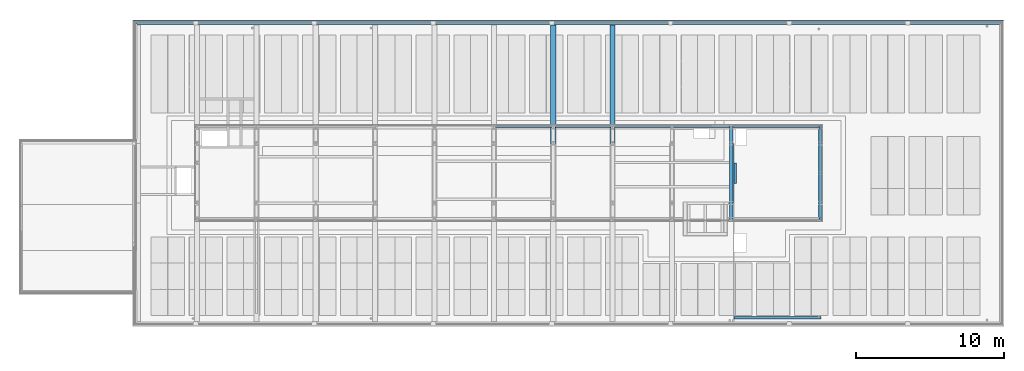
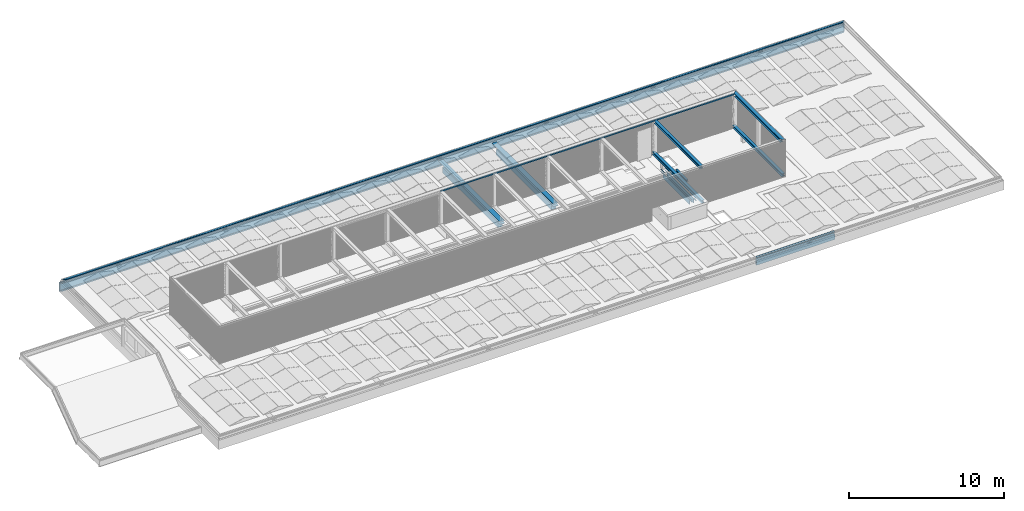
# One storey, part 13 of 63: 13 beams.
"""IFC2X3 building model written with IfcOpenShell, lengths in millimetres."""

from ifc_helpers import new_model, entity, si_unit, converted_unit, derived_unit, money_unit, direction, frame, origin_with_axes, place, context, subcontext, project, spatial, faceted_brep, material, type_object, element, save


model = new_model("IFC2X3")

# Units and contexts
model_context = context("Model", 3, precision=0.01, world=origin_with_axes(), true_north=direction((0.0, 1.0)))
body_context = subcontext(model_context, "Body", "Model", "MODEL_VIEW")
ifc_project = project(units=[si_unit("LENGTHUNIT", "METRE", prefix="MILLI"), si_unit("AREAUNIT", "SQUARE_METRE"), si_unit("VOLUMEUNIT", "CUBIC_METRE"), converted_unit("PLANEANGLEUNIT", "DEGREE", entity("IfcPlaneAngleMeasure", 0.0174532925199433), si_unit("PLANEANGLEUNIT", "RADIAN"), dimensions=[0, 0, 0, 0, 0, 0, 0]), money_unit("EUR"), converted_unit("TIMEUNIT", "Year", entity("IfcTimeMeasure", 31557600.0), si_unit("TIMEUNIT", "SECOND"), dimensions=[0, 0, 1, 0, 0, 0, 0]), si_unit("MASSUNIT", "GRAM", prefix="KILO"), si_unit("THERMODYNAMICTEMPERATUREUNIT", "DEGREE_CELSIUS"), si_unit("LUMINOUSINTENSITYUNIT", "LUMEN"), si_unit("ENERGYUNIT", "JOULE", prefix="MEGA"), derived_unit("THERMALCONDUCTANCEUNIT", [(si_unit("POWERUNIT", "WATT"), 1), (si_unit("LENGTHUNIT", "METRE"), -1), (si_unit("THERMODYNAMICTEMPERATUREUNIT", "KELVIN"), -1)]), derived_unit("SPECIFICHEATCAPACITYUNIT", [(si_unit("ENERGYUNIT", "JOULE"), 1), (si_unit("MASSUNIT", "GRAM", prefix="KILO"), -1), (si_unit("THERMODYNAMICTEMPERATUREUNIT", "KELVIN"), -1)]), derived_unit("MASSDENSITYUNIT", [(si_unit("MASSUNIT", "GRAM", prefix="KILO"), 1), (si_unit("VOLUMEUNIT", "CUBIC_METRE"), -1)])], contexts=[model_context])

# Site, building, storey
site_placement = place(None, origin_with_axes())
site = spatial("IfcSite", under=ifc_project, at=site_placement, Name="<site naam>", CompositionType="ELEMENT")
building_placement = place(site_placement, origin_with_axes())
building = spatial("IfcBuilding", under=site, at=building_placement, Name="<Naam gebouw>", CompositionType="ELEMENT")
storey_placement = place(building_placement, frame((0.0, 0.0, 12770.0), z_axis=(0.0, 0.0, 1.0), x_axis=(1.0, 0.0, 0.0)))
storey = spatial("IfcBuildingStorey", under=building, at=storey_placement, Name="04 4e verdieping", CompositionType="ELEMENT", Elevation=12770.0)

# Beams
ifc_material_1 = material(Name="beton_gewapend_prefab")
beam_type_1 = type_object("IfcBeamType", Name="Betonbanden 160 x 760", PredefinedType="BEAM")
beam_1_placement = place(storey_placement, frame((70309.99999999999, 20265.00000000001, 50.00000000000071), z_axis=(0.0, 0.0, 1.0), x_axis=(0.0, 1.0, 0.0)))
element("IfcBeam", 1, at=beam_1_placement, inside=storey, type_object=beam_type_1, material=ifc_material_1, Name="41_Balk_Betonbanden", ObjectType="BEAM", context=body_context, shape_type="Brep", body=[
    faceted_brep([(-60.00000030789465, 60.00000030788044, 0.0), (-60.00000030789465, 60.00000030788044, -30.00000230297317), (-60.00000030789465, 58524.99999969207, -30.00000230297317), (-60.00000030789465, 58524.99999969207, 0.0), (59.99999757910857, -59.99999757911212, -759.9999375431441), (59.99999757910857, -59.99999757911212, -30.00000230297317), (-100.0000071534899, 100.0000071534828, 0.0), (-100.0000071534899, 100.0000071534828, -100.0000001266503), (4.298051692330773e-06, -4.298058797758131e-06, -100.0000001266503), (4.298051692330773e-06, -4.298058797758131e-06, -690.0000385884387), (-29.99999800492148, 29.99999800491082, -690.0000385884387), (-29.99999800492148, 29.99999800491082, -660.0000280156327), (-60.00000030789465, 60.00000030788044, -660.0000280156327), (-60.00000030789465, 60.00000030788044, -759.9999375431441), (4.298051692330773e-06, -4.298058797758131e-06, -759.9999375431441), (4.298051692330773e-06, -4.298058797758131e-06, -730.0000145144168), (29.99999527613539, -29.9999952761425, -730.0000145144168), (29.99999527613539, -29.9999952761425, -759.9999375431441), (59.99999757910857, 58644.99999757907, -30.00000230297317), (-100.0000071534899, 58484.99999284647, 0.0), (59.99999757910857, 58644.99999757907, -759.9999375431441), (29.99999527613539, 58614.99999527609, -759.9999375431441), (29.99999527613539, 58614.99999527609, -730.0000145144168), (4.298055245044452e-06, 58585.00000429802, -730.0000145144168), (4.298055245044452e-06, 58585.00000429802, -759.9999375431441), (-60.00000030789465, 58524.99999969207, -759.9999375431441), (-60.00000030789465, 58524.99999969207, -660.0000280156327), (-29.99999800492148, 58555.00000199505, -660.0000280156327), (-29.99999800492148, 58555.00000199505, -690.0000385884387), (4.298055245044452e-06, 58585.00000429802, -690.0000385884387), (4.298051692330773e-06, 58585.00000429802, -100.0000001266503), (-100.0000071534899, 58484.99999284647, -100.0000001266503)], [[[0, 1, 2, 3]], [[4, 5, 1, 0, 6, 7, 8, 9, 10, 11, 12, 13, 14, 15, 16, 17]], [[1, 5, 18, 2]], [[19, 3, 2, 18, 20, 21, 22, 23, 24, 25, 26, 27, 28, 29, 30, 31]], [[6, 0, 3, 19]], [[5, 4, 20, 18]], [[7, 6, 19, 31]], [[8, 7, 31, 30]], [[9, 8, 30, 29]], [[10, 9, 29, 28]], [[11, 10, 28, 27]], [[12, 11, 27, 26]], [[13, 12, 26, 25]], [[14, 13, 25, 24]], [[15, 14, 24, 23]], [[16, 15, 23, 22]], [[17, 16, 22, 21]], [[4, 17, 21, 20]]]),
])
ifc_material_2 = material(Name="staal C")
beam_type_2 = type_object("IfcBeamType", Name="HEB220 220 x 220", PredefinedType="BEAM")
beam_2_placement = place(storey_placement, frame((52000.00007868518, 13199.99998542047, 444.1514325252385), z_axis=(0.0, 0.0, 1.0), x_axis=(-1.0, 0.0, 0.0)))
element("IfcBeam", 2, at=beam_2_placement, inside=storey, type_object=beam_type_2, material=ifc_material_2, Name="Info_Balk_HEB220", ObjectType="BEAM", context=body_context, shape_type="Brep", body=[
    faceted_brep([(-109.9999999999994, 0.0, 115.5000000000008), (-109.9999999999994, 6400.000011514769, 115.5000000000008), (-109.9999999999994, 6400.000011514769, 99.50000000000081), (-109.9999999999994, 0.0, 99.50000000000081), (109.9999999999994, 0.0, 115.5000000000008), (109.9999999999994, 6400.000011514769, 115.5000000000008), (109.9999999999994, 6400.000011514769, 99.50000000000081), (4.750000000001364, 6400.000011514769, 99.50000000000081), (4.750000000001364, 6400.000011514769, -88.4999999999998), (109.9999999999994, 6400.000011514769, -88.4999999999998), (109.9999999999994, 6400.000011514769, -104.4999999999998), (-109.9999999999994, 6400.000011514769, -104.4999999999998), (-109.9999999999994, 6400.000011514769, -88.4999999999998), (-4.750000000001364, 6400.000011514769, -88.4999999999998), (-4.750000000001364, 6400.000011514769, 99.50000000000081), (-4.750000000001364, 0.0, 99.50000000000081), (-4.750000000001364, 0.0, -88.4999999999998), (-109.9999999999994, 0.0, -88.4999999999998), (-109.9999999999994, 0.0, -104.4999999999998), (109.9999999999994, 0.0, -104.4999999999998), (109.9999999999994, 0.0, -88.4999999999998), (4.750000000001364, 0.0, -88.4999999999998), (4.750000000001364, 0.0, 99.50000000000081), (109.9999999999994, 0.0, 99.50000000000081)], [[[0, 1, 2, 3]], [[4, 5, 1, 0]], [[2, 1, 5, 6, 7, 8, 9, 10, 11, 12, 13, 14]], [[3, 2, 14, 15]], [[4, 0, 3, 15, 16, 17, 18, 19, 20, 21, 22, 23]], [[23, 6, 5, 4]], [[22, 7, 6, 23]], [[21, 8, 7, 22]], [[20, 9, 8, 21]], [[19, 10, 9, 20]], [[18, 11, 10, 19]], [[17, 12, 11, 18]], [[16, 13, 12, 17]], [[15, 14, 13, 16]]]),
])
beam_3_placement = place(storey_placement, frame((52000.00007868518, 12979.99997390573, 3039.88580884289), z_axis=(0.0, 0.0, 1.0), x_axis=(-1.0, 0.0, 0.0)))
element("IfcBeam", 3, at=beam_3_placement, inside=storey, type_object=beam_type_2, material=ifc_material_2, Name="Info_Balk_HEB220", ObjectType="BEAM", context=body_context, shape_type="Brep", body=[
    faceted_brep([(-109.9999999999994, 0.0, 115.5000000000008), (-109.9999999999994, 5960.000000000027, 115.5000000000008), (-109.9999999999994, 5960.000000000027, 99.50000000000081), (-109.9999999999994, 0.0, 99.50000000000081), (109.9999999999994, 0.0, 115.5000000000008), (109.9999999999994, 5960.000000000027, 115.5000000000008), (109.9999999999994, 5960.000000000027, 99.50000000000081), (4.750000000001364, 5960.000000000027, 99.50000000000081), (4.750000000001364, 5960.000000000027, -88.4999999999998), (109.9999999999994, 5960.000000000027, -88.4999999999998), (109.9999999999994, 5960.000000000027, -104.4999999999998), (-109.9999999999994, 5960.000000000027, -104.4999999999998), (-109.9999999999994, 5960.000000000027, -88.4999999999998), (-4.750000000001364, 5960.000000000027, -88.4999999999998), (-4.750000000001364, 5960.000000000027, 99.50000000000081), (-4.750000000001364, 0.0, 99.50000000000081), (-4.750000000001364, 0.0, -88.4999999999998), (-109.9999999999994, 0.0, -88.4999999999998), (-109.9999999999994, 0.0, -104.4999999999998), (109.9999999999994, 0.0, -104.4999999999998), (109.9999999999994, 0.0, -88.4999999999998), (4.750000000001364, 0.0, -88.4999999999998), (4.750000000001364, 0.0, 99.50000000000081), (109.9999999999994, 0.0, 99.50000000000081)], [[[0, 1, 2, 3]], [[4, 5, 1, 0]], [[2, 1, 5, 6, 7, 8, 9, 10, 11, 12, 13, 14]], [[3, 2, 14, 15]], [[4, 0, 3, 15, 16, 17, 18, 19, 20, 21, 22, 23]], [[23, 6, 5, 4]], [[22, 7, 6, 23]], [[21, 8, 7, 22]], [[20, 9, 8, 21]], [[19, 10, 9, 20]], [[18, 11, 10, 19]], [[17, 12, 11, 18]], [[16, 13, 12, 17]], [[15, 14, 13, 16]]]),
])
beam_4_placement = place(storey_placement, frame((58000.00000000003, 13200.00001151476, 444.1514325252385), z_axis=(0.0, 0.0, 1.0), x_axis=(-1.0, 0.0, 0.0)))
element("IfcBeam", 4, at=beam_4_placement, inside=storey, type_object=beam_type_2, material=ifc_material_2, Name="Info_Balk_HEB220", ObjectType="BEAM", context=body_context, shape_type="Brep", body=[
    faceted_brep([(-109.9999999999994, 0.0, 115.5000000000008), (-109.9999999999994, 6400.00001151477, 115.5000000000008), (-109.9999999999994, 6400.00001151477, 99.50000000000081), (-109.9999999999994, 0.0, 99.50000000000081), (109.9999999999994, 0.0, 115.5000000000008), (109.9999999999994, 6400.00001151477, 115.5000000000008), (109.9999999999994, 6400.00001151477, 99.50000000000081), (4.750000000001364, 6400.00001151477, 99.50000000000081), (4.750000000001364, 6400.00001151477, -88.4999999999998), (109.9999999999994, 6400.00001151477, -88.4999999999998), (109.9999999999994, 6400.00001151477, -104.4999999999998), (-109.9999999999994, 6400.00001151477, -104.4999999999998), (-109.9999999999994, 6400.00001151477, -88.4999999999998), (-4.750000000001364, 6400.00001151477, -88.4999999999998), (-4.750000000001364, 6400.00001151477, 99.50000000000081), (-4.750000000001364, 0.0, 99.50000000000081), (-4.750000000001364, 0.0, -88.4999999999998), (-109.9999999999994, 0.0, -88.4999999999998), (-109.9999999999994, 0.0, -104.4999999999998), (109.9999999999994, 0.0, -104.4999999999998), (109.9999999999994, 0.0, -88.4999999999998), (4.750000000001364, 0.0, -88.4999999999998), (4.750000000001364, 0.0, 99.50000000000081), (109.9999999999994, 0.0, 99.50000000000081)], [[[0, 1, 2, 3]], [[4, 5, 1, 0]], [[2, 1, 5, 6, 7, 8, 9, 10, 11, 12, 13, 14]], [[3, 2, 14, 15]], [[4, 0, 3, 15, 16, 17, 18, 19, 20, 21, 22, 23]], [[23, 6, 5, 4]], [[22, 7, 6, 23]], [[21, 8, 7, 22]], [[20, 9, 8, 21]], [[19, 10, 9, 20]], [[18, 11, 10, 19]], [[17, 12, 11, 18]], [[16, 13, 12, 17]], [[15, 14, 13, 16]]]),
])
beam_5_placement = place(storey_placement, frame((58000.00000000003, 12980.00000000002, 3039.88580884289), z_axis=(0.0, 0.0, 1.0), x_axis=(-1.0, 0.0, 0.0)))
element("IfcBeam", 5, at=beam_5_placement, inside=storey, type_object=beam_type_2, material=ifc_material_2, Name="Info_Balk_HEB220", ObjectType="BEAM", context=body_context, shape_type="Brep", body=[
    faceted_brep([(-109.9999999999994, 0.0, 115.5000000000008), (-109.9999999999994, 5960.000000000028, 115.5000000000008), (-109.9999999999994, 5960.000000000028, 99.50000000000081), (-109.9999999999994, 0.0, 99.50000000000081), (109.9999999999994, 0.0, 115.5000000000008), (109.9999999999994, 5960.000000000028, 115.5000000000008), (109.9999999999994, 5960.000000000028, 99.50000000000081), (4.750000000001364, 5960.000000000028, 99.50000000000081), (4.750000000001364, 5960.000000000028, -88.4999999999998), (109.9999999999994, 5960.000000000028, -88.4999999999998), (109.9999999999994, 5960.000000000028, -104.4999999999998), (-109.9999999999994, 5960.000000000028, -104.4999999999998), (-109.9999999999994, 5960.000000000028, -88.4999999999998), (-4.750000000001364, 5960.000000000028, -88.4999999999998), (-4.750000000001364, 5960.000000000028, 99.50000000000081), (-4.750000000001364, 0.0, 99.50000000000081), (-4.750000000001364, 0.0, -88.4999999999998), (-109.9999999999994, 0.0, -88.4999999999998), (-109.9999999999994, 0.0, -104.4999999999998), (109.9999999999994, 0.0, -104.4999999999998), (109.9999999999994, 0.0, -88.4999999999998), (4.750000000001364, 0.0, -88.4999999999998), (4.750000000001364, 0.0, 99.50000000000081), (109.9999999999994, 0.0, 99.50000000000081)], [[[0, 1, 2, 3]], [[4, 5, 1, 0]], [[2, 1, 5, 6, 7, 8, 9, 10, 11, 12, 13, 14]], [[3, 2, 14, 15]], [[4, 0, 3, 15, 16, 17, 18, 19, 20, 21, 22, 23]], [[23, 6, 5, 4]], [[22, 7, 6, 23]], [[21, 8, 7, 22]], [[20, 9, 8, 21]], [[19, 10, 9, 20]], [[18, 11, 10, 19]], [[17, 12, 11, 18]], [[16, 13, 12, 17]], [[15, 14, 13, 16]]]),
])
ifc_material_3 = material(Name="beton_gewapend C")
beam_type_3 = type_object("IfcBeamType", Name="beton_gewapend C 350 x 600", PredefinedType="BEAM")
for number, where, z_axis, x_axis, name in (
    (6, (44000.00000000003, 19999.99999999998, -59.99999999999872), (0.0, 0.0, 1.0), (-1.0, 0.0, 0.0), "28_Balk_beton_gewapend"),
    (7, (40000.00000000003, 19999.99999999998, -59.99999999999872), (0.0, 0.0, 1.0), (-1.0, 0.0, 0.0), "28_Balk_beton_gewapend"),
):
    element("IfcBeam", number, at=place(storey_placement, frame(where, z_axis=z_axis, x_axis=x_axis)), inside=storey, type_object=beam_type_3, material=ifc_material_3, Name=name, ObjectType="BEAM", context=body_context, shape_type="Brep", body=[
        faceted_brep([(-175.0000000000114, 7999.999999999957, -220.0000000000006), (-175.0000000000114, 7724.999999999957, -220.0000000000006), (-175.0000000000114, 7724.999999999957, -599.9999999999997), (-175.0000000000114, 549.9999999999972, -599.9999999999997), (-175.0000000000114, 549.9999999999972, -159.9999853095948), (-175.0000000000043, 7999.999999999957, -159.9999853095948), (174.9999999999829, 7724.999999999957, -220.0000000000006), (174.9999999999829, 7999.999999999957, -220.0000000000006), (174.9999999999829, 7724.999999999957, -599.9999999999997), (174.9999999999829, 549.9999999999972, -599.9999999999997), (174.9999999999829, 549.9999999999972, -159.9999853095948), (174.9999999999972, 7999.999999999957, -159.9999853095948)], [[[0, 1, 2, 3, 4, 5]], [[6, 1, 0, 7]], [[8, 2, 1, 6]], [[3, 2, 8, 9]], [[9, 10, 4, 3]], [[5, 4, 10, 11]], [[11, 7, 0, 5]], [[8, 6, 7, 11, 10, 9]]]),
        faceted_brep([(-175.0000000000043, 7999.999999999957, 0.0), (-175.0000000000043, 7999.999999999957, -9.99998530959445), (-174.9999999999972, 0.0, -9.99998530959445), (-174.9999999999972, 0.0, 0.0), (174.9999999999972, 7999.999999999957, 0.0), (174.9999999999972, 7999.999999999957, -9.99998530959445), (174.9999999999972, 0.0, -9.99998530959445), (174.9999999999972, 0.0, 0.0)], [[[0, 1, 2, 3]], [[4, 5, 1, 0]], [[5, 6, 2, 1]], [[3, 2, 6, 7]], [[3, 7, 4, 0]], [[7, 6, 5, 4]]]),
    ])
ifc_material_4 = material(Name="ALG - BUITENAFWERKING")
beam_type_4 = type_object("IfcBeamType", Name="ALG - BUITENAFWERKING 170 x 18", PredefinedType="BEAM")
beam_6_placement = place(storey_placement, frame((70078.19999757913, 20033.19999757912, 241.2498222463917), z_axis=(0.0, 0.0, 1.0), x_axis=(0.0, 1.0, 0.0)))
element("IfcBeam", 8, at=beam_6_placement, inside=storey, type_object=beam_type_4, material=ifc_material_4, Name="47_Balk_ALG", ObjectType="BEAM", context=body_context, shape_type="Brep", body=[
    faceted_brep([(170.0000000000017, 58291.39999515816, 18.00262955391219), (0.0, 58121.39999515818, 18.00262955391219), (0.0, 0.0, 18.00262955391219), (170.0000000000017, -170.0000000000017, 18.00262955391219), (170.0000000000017, 58291.39999515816, 0.0), (0.0, 58121.39999515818, 0.0), (0.0, 0.0, 0.0), (170.0000000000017, -170.0000000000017, 0.0)], [[[0, 1, 2, 3]], [[0, 4, 5, 1]], [[1, 5, 6, 2]], [[3, 2, 6, 7]], [[4, 0, 3, 7]], [[5, 4, 7, 6]]]),
])
beam_type_5 = type_object("IfcBeamType", Name="beton_gewapend C 170 x 600", PredefinedType="BEAM")
beam_7_placement = place(storey_placement, frame((52175.00007264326, 185.9106781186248, -29.99999999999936), z_axis=(0.0, 0.0, 1.0), x_axis=(0.0, -1.0, 0.0)))
element("IfcBeam", 9, at=beam_7_placement, inside=storey, type_object=beam_type_5, material=ifc_material_3, Name="28_Balk_beton_gewapend", ObjectType="BEAM", context=body_context, shape_type="Brep", body=[
    faceted_brep([(-169.9999999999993, 0.0, -599.9999999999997), (-169.9999999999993, 0.0, -189.9999853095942), (-170.0000000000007, 5869.999927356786, -189.9999853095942), (-170.0000000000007, 5869.999927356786, -599.9999999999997), (0.0, 0.0, -599.9999999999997), (0.0, 0.0, -189.9999853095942), (0.0, 5869.999927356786, -189.9999853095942), (0.0, 5869.999927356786, -599.9999999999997)], [[[0, 1, 2, 3]], [[4, 5, 1, 0]], [[5, 6, 2, 1]], [[3, 2, 6, 7]], [[7, 4, 0, 3]], [[7, 6, 5, 4]]]),
    faceted_brep([(0.0, 5869.999927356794, 0.0), (0.0, 5869.999927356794, -39.99998530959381), (-170.0000000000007, 5869.999927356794, -39.99998530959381), (-170.0000000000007, 5869.999927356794, 0.0), (0.0, 0.0, 0.0), (0.0, 0.0, -39.99998530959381), (-169.9999999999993, 0.0, -39.99998530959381), (-169.9999999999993, 0.0, 0.0)], [[[0, 1, 2, 3]], [[4, 5, 1, 0]], [[5, 6, 2, 1]], [[3, 2, 6, 7]], [[3, 7, 4, 0]], [[7, 6, 5, 4]]]),
])
beam_type_6 = type_object("IfcBeamType", Name="beton_gewapend C 350 x 550", PredefinedType="BEAM")
beam_8_placement = place(storey_placement, frame((52000.00007868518, 11999.99997390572, -59.99999999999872), z_axis=(0.0, 0.0, 1.0), x_axis=(-1.0, 0.0, 0.0)))
element("IfcBeam", 10, at=beam_8_placement, inside=storey, type_object=beam_type_6, material=ifc_material_3, Name="28_Balk_beton_gewapend", ObjectType="BEAM", context=body_context, shape_type="Brep", body=[
    faceted_brep([(145.0000786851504, 4005.546149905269, -220.0000000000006), (145.0000786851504, 3724.999973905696, -220.0000000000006), (145.0000786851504, 3724.999973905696, -550.0000000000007), (145.0000786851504, 274.9999739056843, -550.0000000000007), (145.0000786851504, 274.9999739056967, -220.0000000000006), (145.0000786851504, 0.0, -220.0000000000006), (145.0000786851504, 0.0, -159.9999853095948), (145.0000786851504, 4005.546149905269, -159.9999853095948), (175.0000786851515, 3724.999973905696, -220.0000000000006), (175.0000786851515, 4005.546149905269, -220.0000000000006), (175.0000786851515, 3724.999973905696, -550.0000000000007), (175.0000786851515, 274.9999739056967, -550.0000000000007), (175.0000786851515, 274.9999739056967, -220.0000000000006), (175.0000786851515, 0.0, -220.0000000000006), (174.9999999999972, 0.0, -159.9999853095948), (174.9999999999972, 4005.546149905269, -159.9999853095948)], [[[0, 1, 2, 3, 4, 5, 6, 7]], [[8, 1, 0, 9]], [[10, 2, 1, 8]], [[3, 2, 10, 11]], [[12, 4, 3, 11]], [[12, 13, 5, 4]], [[6, 5, 13, 14]], [[14, 15, 7, 6]], [[15, 9, 0, 7]], [[10, 8, 9, 15, 14, 13, 12, 11]]]),
    faceted_brep([(-174.9999213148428, 4005.546149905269, -220.0000000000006), (-174.9999213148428, 3724.999973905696, -220.0000000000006), (-174.9999213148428, 3724.999973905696, -550.0000000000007), (-174.9999213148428, 274.999973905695, -550.0000000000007), (-174.9999213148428, 274.9999739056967, -220.0000000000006), (-174.9999213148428, 0.0, -220.0000000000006), (-174.9999999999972, 0.0, -159.9999853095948), (-174.9999999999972, 4005.546149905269, -159.9999853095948), (-134.9999213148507, 3724.999973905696, -220.0000000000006), (-134.9999213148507, 4005.546149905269, -219.9999999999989), (-134.9999213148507, 3724.999973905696, -550.0000000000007), (-134.9999213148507, 274.9999739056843, -550.0000000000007), (-134.9999213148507, 274.9999739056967, -220.0000000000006), (-134.9999213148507, 0.0, -220.0000000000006), (-134.9999213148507, 0.0, -159.9999853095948), (-134.9999213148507, 4005.546149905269, -159.9999853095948)], [[[0, 1, 2, 3, 4, 5, 6, 7]], [[8, 1, 0, 9]], [[10, 2, 1, 8]], [[3, 2, 10, 11]], [[12, 4, 3, 11]], [[12, 13, 5, 4]], [[6, 5, 13, 14]], [[14, 15, 7, 6]], [[15, 9, 0, 7]], [[10, 8, 9, 15, 14, 13, 12, 11]]]),
    faceted_brep([(145.0000786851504, 4005.546149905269, 0.0), (145.0000786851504, 4005.546149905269, -9.99998530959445), (145.0000786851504, 0.0, -9.99998530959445), (145.0000786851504, 0.0, 0.0), (174.9999999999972, 4005.546149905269, 0.0), (174.9999999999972, 4005.546149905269, -9.99998530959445), (174.9999999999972, 0.0, -9.99998530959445), (174.9999999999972, 0.0, 0.0)], [[[0, 1, 2, 3]], [[4, 5, 1, 0]], [[5, 6, 2, 1]], [[3, 2, 6, 7]], [[7, 4, 0, 3]], [[7, 6, 5, 4]]]),
    faceted_brep([(-174.9999999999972, 4005.546149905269, 0.0), (-174.9999999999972, 4005.546149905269, -9.99998530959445), (-174.9999999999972, 0.0, -9.99998530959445), (-174.9999999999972, 0.0, 0.0), (-134.9999213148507, 4005.546149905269, 0.0), (-134.9999213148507, 4005.546149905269, -9.99998530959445), (-134.9999213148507, 0.0, -9.99998530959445), (-134.9999213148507, 0.0, 0.0)], [[[0, 1, 2, 3]], [[4, 5, 1, 0]], [[5, 6, 2, 1]], [[3, 2, 6, 7]], [[0, 3, 7, 4]], [[7, 6, 5, 4]]]),
])
beam_type_7 = type_object("IfcBeamType", Name="HEB160 160 x 160", PredefinedType="BEAM")
beam_9_placement = place(storey_placement, frame((52255.00007868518, 9305.128457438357, 498.7660432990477), z_axis=(0.0, 0.0, 1.0), x_axis=(1.0, 0.0, 0.0)))
element("IfcBeam", 11, at=beam_9_placement, inside=storey, type_object=beam_type_7, material=ifc_material_2, Name="Info_Balk_HEB160", ObjectType="BEAM", context=body_context, shape_type="Brep", body=[
    faceted_brep([(-79.9999999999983, 0.0, 85.49999999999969), (-79.9999999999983, 1382.098441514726, 85.49999999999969), (-79.9999999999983, 1382.098441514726, 72.49999999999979), (-79.9999999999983, 0.0, 72.49999999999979), (79.9999999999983, 0.0, 85.49999999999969), (79.9999999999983, 1382.098441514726, 85.49999999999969), (79.9999999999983, 1382.098441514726, 72.49999999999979), (3.999999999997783, 1382.098441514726, 72.49999999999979), (3.999999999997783, 1382.098441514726, -61.50000000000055), (79.9999999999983, 1382.098441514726, -61.50000000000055), (79.9999999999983, 1382.098441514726, -74.50000000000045), (-79.9999999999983, 1382.098441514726, -74.50000000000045), (-79.9999999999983, 1382.098441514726, -61.50000000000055), (-3.999999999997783, 1382.098441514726, -61.50000000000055), (-3.999999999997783, 1382.098441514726, 72.49999999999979), (-3.999999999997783, 0.0, 72.49999999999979), (-3.999999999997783, 0.0, -61.50000000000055), (-79.9999999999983, 0.0, -61.50000000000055), (-79.9999999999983, 0.0, -74.50000000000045), (79.9999999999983, 0.0, -74.50000000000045), (79.9999999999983, 0.0, -61.50000000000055), (3.999999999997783, 0.0, -61.50000000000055), (3.999999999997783, 0.0, 72.49999999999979), (79.9999999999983, 0.0, 72.49999999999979)], [[[0, 1, 2, 3]], [[4, 5, 1, 0]], [[2, 1, 5, 6, 7, 8, 9, 10, 11, 12, 13, 14]], [[3, 2, 14, 15]], [[4, 0, 3, 15, 16, 17, 18, 19, 20, 21, 22, 23]], [[23, 6, 5, 4]], [[22, 7, 6, 23]], [[21, 8, 7, 22]], [[20, 9, 8, 21]], [[19, 10, 9, 20]], [[18, 11, 10, 19]], [[17, 12, 11, 18]], [[16, 13, 12, 17]], [[15, 14, 13, 16]]]),
])
beam_type_8 = type_object("IfcBeamType", Name="RHS100X100X5 100 x 100", PredefinedType="BEAM")
beam_10_placement = place(storey_placement, frame((57995.25000000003, 13131.11996551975, 3039.88580884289), z_axis=(0.0, 0.0, 1.0), x_axis=(0.0001309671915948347, 0.9999999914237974, 0.0)))
element("IfcBeam", 12, at=beam_10_placement, inside=storey, type_object=beam_type_8, material=ifc_material_2, Name="Info_Balk_RHS100X100X5", ObjectType="BEAM", context=body_context, shape_type="Brep", body=[
    faceted_brep([(-49.99999999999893, 5990.493424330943, 50.00000000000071), (-49.99999999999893, 5990.493424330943, -50.00000000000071), (-49.99999999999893, 0.0, -50.00000000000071), (-49.99999999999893, 0.0, 50.00000000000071), (50.00000000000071, 5990.506521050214, -50.00000000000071), (50.00000000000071, 5990.506521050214, 50.00000000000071), (-44.99999999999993, 5990.494079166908, 44.99999999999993), (-44.99999999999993, 5990.494079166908, -44.99999999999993), (44.99999999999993, 5990.505866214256, -44.99999999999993), (44.99999999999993, 5990.505866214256, 44.99999999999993), (50.00000000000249, 0.0, -50.00000000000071), (50.00000000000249, 0.0, 50.00000000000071), (45.00000000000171, 0.0, -44.99999999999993), (-44.99999999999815, 0.0, -44.99999999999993), (-44.99999999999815, 0.0, 44.99999999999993), (45.00000000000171, 0.0, 44.99999999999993)], [[[0, 1, 2, 3]], [[4, 1, 0, 5], [6, 7, 8, 9]], [[10, 2, 1, 4]], [[3, 2, 10, 11], [12, 13, 14, 15]], [[5, 0, 3, 11]], [[11, 10, 4, 5]], [[14, 13, 7, 6]], [[8, 7, 13, 12]], [[9, 8, 12, 15]], [[15, 14, 6, 9]]]),
    faceted_brep([(-49.99999999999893, 17999.99360601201, 50.00000000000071), (-50.00000000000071, 21990.49367454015, 50.00000000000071), (-50.00000000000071, 21990.49367454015, -50.00000000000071), (-49.99999999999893, 17999.99360601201, -50.00000000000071), (50.00000000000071, 21990.50677125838, 50.00000000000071), (50.00000000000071, 18000.00670273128, 50.00000000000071), (50.00000000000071, 21990.50677125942, -50.00000000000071), (-45.00000000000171, 21990.49432937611, 44.99999999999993), (-45.00000000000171, 21990.49432937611, -44.99999999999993), (44.99999999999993, 21990.50611642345, -44.99999999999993), (44.99999999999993, 21990.50611642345, 44.99999999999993), (50.00000000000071, 18000.00670273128, -50.00000000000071), (45.00000000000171, 18000.00604789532, 44.99999999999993), (45.00000000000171, 18000.00604789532, -44.99999999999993), (-44.99999999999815, 17999.99426084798, -44.99999999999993), (-44.99999999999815, 17999.99426084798, 44.99999999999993)], [[[0, 1, 2, 3]], [[4, 1, 0, 5]], [[6, 2, 1, 4], [7, 8, 9, 10]], [[11, 3, 2, 6]], [[5, 0, 3, 11], [12, 13, 14, 15]], [[5, 11, 6, 4]], [[15, 14, 8, 7]], [[13, 9, 8, 14]], [[12, 10, 9, 13]], [[15, 7, 10, 12]]]),
    faceted_brep([(50.00000000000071, 17990.5067026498, -50.00000000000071), (-49.99999999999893, 17990.49360593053, -50.00000000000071), (-49.99999999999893, 17990.49360593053, 50.00000000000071), (50.00000000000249, 17990.5067026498, 50.00000000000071), (-44.99999999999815, 17990.4942607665, 44.99999999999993), (-44.99999999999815, 17990.4942607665, -44.99999999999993), (45.00000000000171, 17990.50604781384, -44.99999999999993), (45.00000000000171, 17990.50604781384, 44.99999999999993), (50.00000000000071, 14000.00666842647, -50.00000000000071), (-49.99999999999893, 13999.9935717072, -50.00000000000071), (-49.99999999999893, 13999.9935717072, 50.00000000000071), (50.00000000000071, 14000.00666842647, 50.00000000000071), (-44.99999999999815, 13999.99422654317, 44.99999999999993), (-44.99999999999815, 13999.99422654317, -44.99999999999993), (44.99999999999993, 14000.00601359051, -44.99999999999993), (44.99999999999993, 14000.00601359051, 44.99999999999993)], [[[0, 1, 2, 3], [4, 5, 6, 7]], [[8, 9, 1, 0]], [[1, 9, 10, 2]], [[3, 2, 10, 11]], [[11, 8, 0, 3]], [[12, 13, 5, 4]], [[14, 6, 5, 13]], [[7, 6, 14, 15]], [[12, 4, 7, 15]], [[11, 10, 9, 8], [15, 14, 13, 12]]]),
    faceted_brep([(-49.99999999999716, 13990.49357162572, 50.00000000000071), (-49.99999999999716, 13990.49357162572, -50.00000000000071), (-49.99999999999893, 9999.99353740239, -50.00000000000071), (-49.99999999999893, 9999.99353740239, 50.00000000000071), (50.00000000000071, 13990.50666834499, -50.00000000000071), (50.00000000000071, 13990.50666834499, 50.00000000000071), (44.99999999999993, 13990.50601350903, 44.99999999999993), (-44.99999999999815, 13990.49422646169, 44.99999999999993), (-44.99999999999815, 13990.49422646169, -44.99999999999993), (44.99999999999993, 13990.50601350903, -44.99999999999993), (50.00000000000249, 10000.00663412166, -50.00000000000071), (50.00000000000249, 10000.00663412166, 50.00000000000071), (44.99999999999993, 10000.0059792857, 44.99999999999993), (44.99999999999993, 10000.0059792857, -44.99999999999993), (-44.99999999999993, 9999.994192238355, -44.99999999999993), (-44.99999999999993, 9999.994192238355, 44.99999999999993)], [[[0, 1, 2, 3]], [[4, 1, 0, 5], [6, 7, 8, 9]], [[10, 2, 1, 4]], [[11, 3, 2, 10], [12, 13, 14, 15]], [[5, 0, 3, 11]], [[11, 10, 4, 5]], [[12, 15, 7, 6]], [[14, 8, 7, 15]], [[9, 8, 14, 13]], [[6, 9, 13, 12]]]),
    faceted_brep([(-49.99999999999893, 9990.493537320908, 50.00000000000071), (-49.99999999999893, 9990.493537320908, -50.00000000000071), (-49.99999999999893, 5999.993424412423, -50.00000000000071), (-49.99999999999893, 5999.993424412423, 50.00000000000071), (50.00000000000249, 9990.50663404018, -50.00000000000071), (50.00000000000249, 9990.50663404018, 50.00000000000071), (-44.99999999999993, 9990.494192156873, 44.99999999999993), (-44.99999999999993, 9990.494192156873, -44.99999999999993), (45.00000000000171, 9990.505979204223, -44.99999999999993), (45.00000000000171, 9990.505979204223, 44.99999999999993), (50.00000000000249, 6000.006521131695, -50.00000000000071), (50.00000000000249, 6000.006521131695, 50.00000000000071), (45.00000000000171, 6000.00586629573, 44.99999999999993), (45.00000000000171, 6000.00586629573, -44.99999999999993), (-44.99999999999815, 5999.994079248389, -44.99999999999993), (-44.99999999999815, 5999.994079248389, 44.99999999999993)], [[[0, 1, 2, 3]], [[4, 1, 0, 5], [6, 7, 8, 9]], [[10, 2, 1, 4]], [[11, 3, 2, 10], [12, 13, 14, 15]], [[5, 0, 3, 11]], [[10, 4, 5, 11]], [[7, 6, 15, 14]], [[13, 8, 7, 14]], [[8, 13, 12, 9]], [[12, 15, 6, 9]]]),
])
ifc_material_5 = material(Name="staal")
beam_type_9 = type_object("IfcBeamType", Name="stalen gevelschermafdekker 255 x 35", PredefinedType="BEAM")
beam_11_placement = place(storey_placement, frame((58145.00007843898, 13234.99777370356, 2921.405981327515), z_axis=(0.0, 0.0, 1.0), x_axis=(-1.0, 0.0, 0.0)))
element("IfcBeam", 13, at=beam_11_placement, inside=storey, type_object=beam_type_9, material=ifc_material_5, Name="Info_Balk_stalen", ObjectType="BEAM", context=body_context, shape_type="Brep", body=[
    faceted_brep([(9.99999999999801, 9.998690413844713, 249.000008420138), (9.99999999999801, 6459.956038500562, 249.000008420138), (11.01997556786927, 6458.936196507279, 249.000008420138), (11.01997556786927, 11.01853240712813, 249.000008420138), (9.99999999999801, 9.998690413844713, 284.0000084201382), (9.99999999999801, 6459.956038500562, 284.0000084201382), (264.9874219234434, 6205.002009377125, 284.0000084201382), (264.9874219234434, 6205.002009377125, 259.0000084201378), (264.0199747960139, 6205.969329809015, 259.0000084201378), (264.0199747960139, 6205.969329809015, 283.0000014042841), (11.01997556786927, 6458.936196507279, 283.0000014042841), (11.01997556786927, 11.01853240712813, 283.0000014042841), (264.0199747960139, 263.9853991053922, 283.0000014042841), (264.0199747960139, 263.9853991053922, 259.0000084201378), (264.9874219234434, 264.9527195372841, 259.0000084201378), (264.9874219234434, 264.9527195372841, 284.0000084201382)], [[[0, 1, 2, 3]], [[4, 5, 1, 0]], [[2, 1, 5, 6, 7, 8, 9, 10]], [[3, 2, 10, 11]], [[4, 0, 3, 11, 12, 13, 14, 15]], [[15, 6, 5, 4]], [[14, 7, 6, 15]], [[13, 8, 7, 14]], [[12, 9, 8, 13]], [[11, 10, 9, 12]]]),
])

save(model, "model.ifc")
